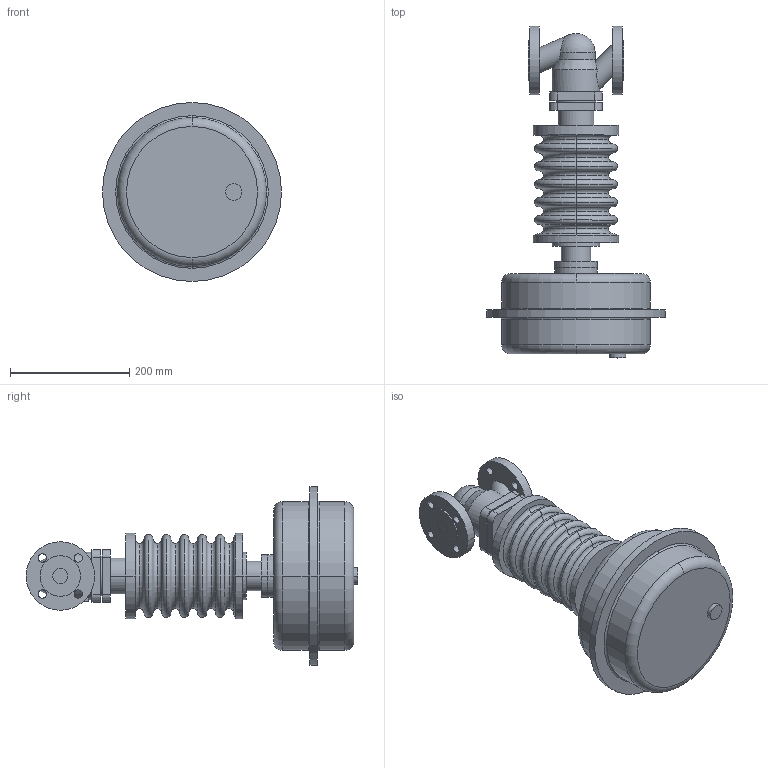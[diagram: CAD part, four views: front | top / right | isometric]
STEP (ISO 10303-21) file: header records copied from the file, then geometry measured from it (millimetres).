
FILE_DESCRIPTION( ( '' ), '1' );
FILE_NAME( 'C:/temp/WMCHECKOUT/c000005808.stp', '2015-08-10T08:22:44', ( '' ), ( '' ), ' ', ' ', ' ' );
FILE_SCHEMA( ( 'CONFIG_CONTROL_DESIGN' ) );
Length unit declared in the file: millimetre
Products named in the file (2): 1; 2
Bounding box: 300 x 556.5 x 300 mm (x, y, z)
Volume: 10501770.2 mm3; surface area: 516635.8 mm2
Topology: 2 solids, 2 shells, 173 faces, 413 edges, 265 vertices
Faces by surface type: cylinder 68, torus 54, plane 48, cone 2, sphere 1
Entity records: 5619 total; most frequent: CARTESIAN_POINT 1247, DIRECTION 1025, ORIENTED_EDGE 822, AXIS2_PLACEMENT_3D 449, EDGE_CURVE 411, CIRCLE 268, VERTEX_POINT 265, EDGE_LOOP 212
